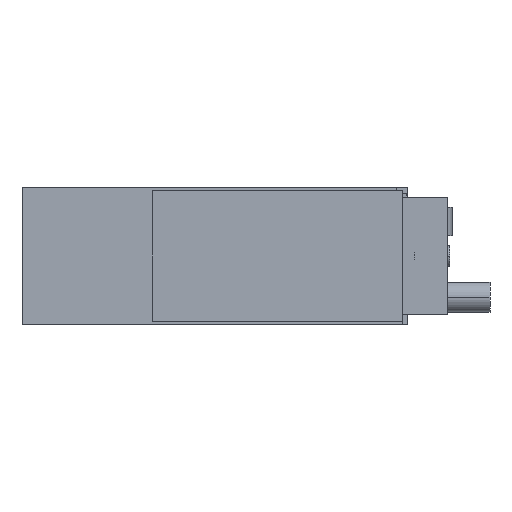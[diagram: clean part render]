
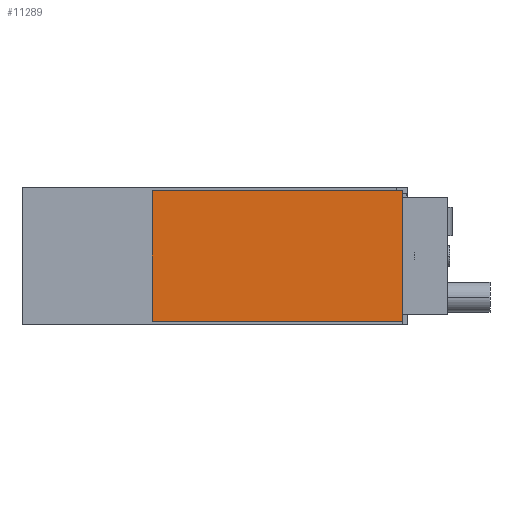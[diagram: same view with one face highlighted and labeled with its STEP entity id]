
A CAD part, front view. The second image highlights one B-rep face of the part: STEP entity #11289.
In plain terms, the highlighted planar face has unit normal (0, -1, 0).
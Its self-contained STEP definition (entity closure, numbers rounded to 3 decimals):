
#161 = ORIENTED_EDGE ( 'NONE', *, *, #5183, .T. ) ;
#249 = VERTEX_POINT ( 'NONE', #12520 ) ;
#583 = VECTOR ( 'NONE', #4088, 1000. ) ;
#694 = CARTESIAN_POINT ( 'NONE',  ( 0., -98., 0. ) ) ;
#768 = EDGE_LOOP ( 'NONE', ( #10772, #5916, #161, #1820 ) ) ;
#845 = VECTOR ( 'NONE', #2219, 1000. ) ;
#1720 = DIRECTION ( 'NONE',  ( 0., 0., -1. ) ) ;
#1820 = ORIENTED_EDGE ( 'NONE', *, *, #10329, .T. ) ;
#2219 = DIRECTION ( 'NONE',  ( -1., 0., 0. ) ) ;
#2383 = LINE ( 'NONE', #5136, #9692 ) ;
#2611 = CARTESIAN_POINT ( 'NONE',  ( -50., -98., -26. ) ) ;
#2840 = FACE_OUTER_BOUND ( 'NONE', #768, .T. ) ;
#2907 = LINE ( 'NONE', #2611, #583 ) ;
#3485 = LINE ( 'NONE', #4198, #845 ) ;
#3775 = AXIS2_PLACEMENT_3D ( 'NONE', #694, #7663, #1720 ) ;
#4088 = DIRECTION ( 'NONE',  ( 1., 0., 0. ) ) ;
#4198 = CARTESIAN_POINT ( 'NONE',  ( -50., -98., 26. ) ) ;
#4423 = EDGE_CURVE ( 'NONE', #5471, #4647, #2907, .T. ) ;
#4647 = VERTEX_POINT ( 'NONE', #6266 ) ;
#5136 = CARTESIAN_POINT ( 'NONE',  ( -50., -98., 26. ) ) ;
#5183 = EDGE_CURVE ( 'NONE', #4647, #249, #7080, .T. ) ;
#5471 = VERTEX_POINT ( 'NONE', #8116 ) ;
#5916 = ORIENTED_EDGE ( 'NONE', *, *, #4423, .T. ) ;
#6266 = CARTESIAN_POINT ( 'NONE',  ( 50., -98., -26. ) ) ;
#6927 = CARTESIAN_POINT ( 'NONE',  ( 50., -98., 26. ) ) ;
#7080 = LINE ( 'NONE', #6927, #9439 ) ;
#7663 = DIRECTION ( 'NONE',  ( 0., -1., 0. ) ) ;
#8116 = CARTESIAN_POINT ( 'NONE',  ( -50., -98., -26. ) ) ;
#8222 = DIRECTION ( 'NONE',  ( 0., 0., -1. ) ) ;
#8310 = CARTESIAN_POINT ( 'NONE',  ( -50., -98., 26. ) ) ;
#8595 = PLANE ( 'NONE',  #3775 ) ;
#9439 = VECTOR ( 'NONE', #11373, 1000. ) ;
#9692 = VECTOR ( 'NONE', #8222, 1000. ) ;
#10329 = EDGE_CURVE ( 'NONE', #249, #10429, #3485, .T. ) ;
#10429 = VERTEX_POINT ( 'NONE', #8310 ) ;
#10772 = ORIENTED_EDGE ( 'NONE', *, *, #12144, .T. ) ;
#11289 = ADVANCED_FACE ( 'NONE', ( #2840 ), #8595, .T. ) ;
#11373 = DIRECTION ( 'NONE',  ( 0., 0., 1. ) ) ;
#12144 = EDGE_CURVE ( 'NONE', #10429, #5471, #2383, .T. ) ;
#12520 = CARTESIAN_POINT ( 'NONE',  ( 50., -98., 26. ) ) ;
